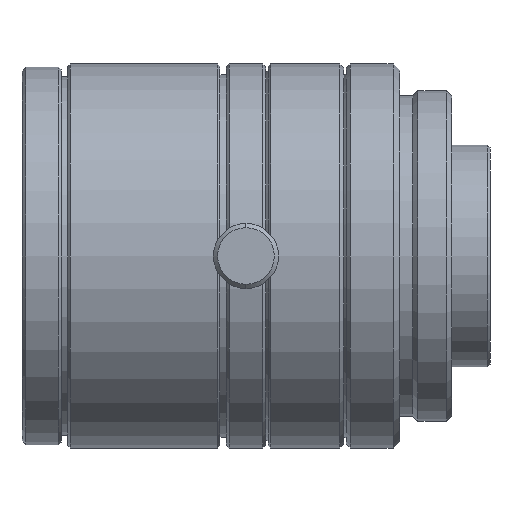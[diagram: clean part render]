
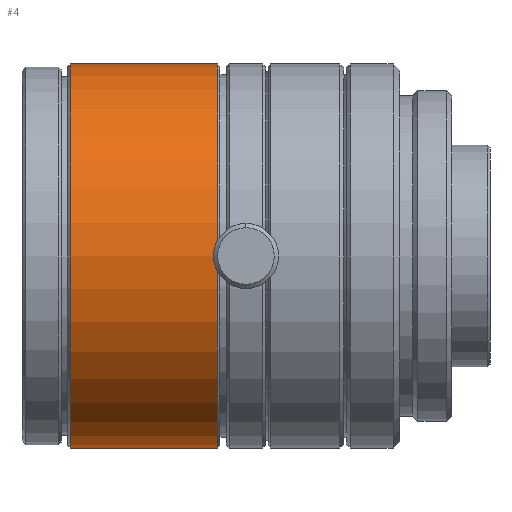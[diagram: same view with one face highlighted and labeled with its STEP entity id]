
A CAD part, front view. The second image highlights one B-rep face of the part: STEP entity #4.
In plain terms, the highlighted cylindrical face has radius 14.75 mm (diameter 29.5 mm), a partial arc.
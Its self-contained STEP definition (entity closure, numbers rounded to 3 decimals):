
#4 = ADVANCED_FACE ( 'NONE', ( #3190 ), #824, .T. ) ;
#24 = AXIS2_PLACEMENT_3D ( 'NONE', #1152, #2858, #2943 ) ;
#47 = CARTESIAN_POINT ( 'NONE',  ( -31.5, 0., -14.75 ) ) ;
#139 = ORIENTED_EDGE ( 'NONE', *, *, #1235, .F. ) ;
#222 = CARTESIAN_POINT ( 'NONE',  ( -42.8, 0., 0. ) ) ;
#231 = DIRECTION ( 'NONE',  ( 1., 0., 0. ) ) ;
#240 = DIRECTION ( 'NONE',  ( 0., 0., -1. ) ) ;
#268 = AXIS2_PLACEMENT_3D ( 'NONE', #222, #231, #240 ) ;
#473 = EDGE_CURVE ( 'NONE', #3284, #2195, #2374, .T. ) ;
#541 = EDGE_CURVE ( 'NONE', #3284, #917, #2051, .T. ) ;
#623 = EDGE_LOOP ( 'NONE', ( #928, #2885, #865, #139 ) ) ;
#744 = DIRECTION ( 'NONE',  ( 1., 0., 0. ) ) ;
#766 = DIRECTION ( 'NONE',  ( 1., 0., 0. ) ) ;
#773 = CARTESIAN_POINT ( 'NONE',  ( 0., 0., 14.75 ) ) ;
#824 = CYLINDRICAL_SURFACE ( 'NONE', #2070, 14.75 ) ;
#865 = ORIENTED_EDGE ( 'NONE', *, *, #2348, .T. ) ;
#917 = VERTEX_POINT ( 'NONE', #2378 ) ;
#928 = ORIENTED_EDGE ( 'NONE', *, *, #541, .F. ) ;
#963 = LINE ( 'NONE', #2645, #2242 ) ;
#1152 = CARTESIAN_POINT ( 'NONE',  ( -31.5, 0., 0. ) ) ;
#1235 = EDGE_CURVE ( 'NONE', #917, #1424, #1738, .T. ) ;
#1424 = VERTEX_POINT ( 'NONE', #47 ) ;
#1528 = VECTOR ( 'NONE', #766, 1000. ) ;
#1738 = CIRCLE ( 'NONE', #24, 14.75 ) ;
#2051 = LINE ( 'NONE', #773, #1528 ) ;
#2070 = AXIS2_PLACEMENT_3D ( 'NONE', #2560, #2448, #2435 ) ;
#2195 = VERTEX_POINT ( 'NONE', #2465 ) ;
#2242 = VECTOR ( 'NONE', #744, 1000. ) ;
#2348 = EDGE_CURVE ( 'NONE', #2195, #1424, #963, .T. ) ;
#2374 = CIRCLE ( 'NONE', #268, 14.75 ) ;
#2378 = CARTESIAN_POINT ( 'NONE',  ( -31.5, 0., 14.75 ) ) ;
#2419 = CARTESIAN_POINT ( 'NONE',  ( -42.8, 0., 14.75 ) ) ;
#2435 = DIRECTION ( 'NONE',  ( 0., 0., -1. ) ) ;
#2448 = DIRECTION ( 'NONE',  ( 1., 0., 0. ) ) ;
#2465 = CARTESIAN_POINT ( 'NONE',  ( -42.8, 0., -14.75 ) ) ;
#2560 = CARTESIAN_POINT ( 'NONE',  ( 0., 0., 0. ) ) ;
#2645 = CARTESIAN_POINT ( 'NONE',  ( 0., 0., -14.75 ) ) ;
#2858 = DIRECTION ( 'NONE',  ( 1., 0., 0. ) ) ;
#2885 = ORIENTED_EDGE ( 'NONE', *, *, #473, .T. ) ;
#2943 = DIRECTION ( 'NONE',  ( 0., 0., -1. ) ) ;
#3190 = FACE_OUTER_BOUND ( 'NONE', #623, .T. ) ;
#3284 = VERTEX_POINT ( 'NONE', #2419 ) ;
